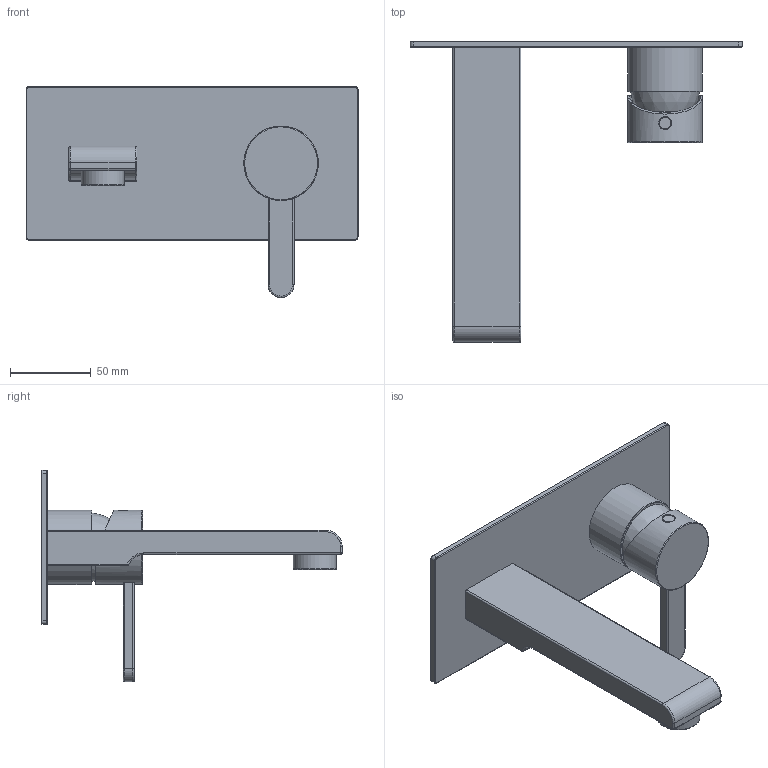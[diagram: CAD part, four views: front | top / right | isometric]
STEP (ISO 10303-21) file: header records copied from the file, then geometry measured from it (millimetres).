
FILE_DESCRIPTION(/* description */ (''),/* implementation_level */ '2;1');
FILE_NAME(/* name */ 'c:\worker\convert-fusion-r01\tmp\job-1\10\output\files\db8968ec-5a86-4cc1-b543-eb079acb3f82\edb3575f-7966-41c3-8f28-0d1c4900f9b5.stp',/* time_stamp */ '2020-02-12T08:11:53+00:00',/* author */ (''),/* organization */ (''),/* preprocessor_version */ 'ST-DEVELOPER v18',/* originating_system */ 'Autodesk Translation Framework v8.12.0.6',/* authorisation */ '');
FILE_SCHEMA (('AUTOMOTIVE_DESIGN { 1 0 10303 214 3 1 1 }'));
Products named in the file (1): !DA5015
Bounding box: 205 x 185.5 x 130.5 mm (x, y, z)
Volume: 279639.7 mm3; surface area: 93752 mm2
Topology: 8 solids, 8 shells, 140 faces, 352 edges, 229 vertices
Faces by surface type: plane 57, cylinder 44, bspline 20, torus 15, sphere 4
Full cylindrical faces by diameter (mm): 8 x1, 23.651 x1, 26.651 x1, 41 x1, 42.5 x1, 45.853 x1, 46 x1
Entity records: 36301 total; most frequent: CARTESIAN_POINT 32958, ORIENTED_EDGE 704, DIRECTION 666, EDGE_CURVE 352, AXIS2_PLACEMENT_3D 254, VERTEX_POINT 229, LINE 158, VECTOR 158
